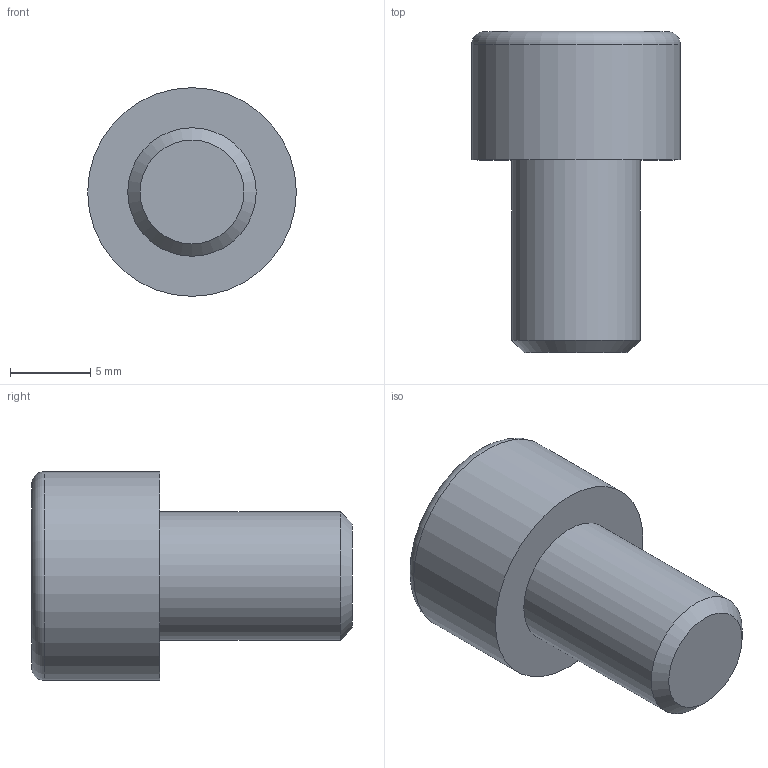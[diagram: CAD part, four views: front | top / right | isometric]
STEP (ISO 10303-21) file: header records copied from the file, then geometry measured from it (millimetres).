
FILE_DESCRIPTION(/* description */ (''),/* implementation_level */ '2;1');
FILE_NAME(/* name */ 'C:\Users\D\Documents\Inventor\各種小物\JIS\JIS B 1176 六角穴付きボルト\M8x12.stp',/* time_stamp */ '2022-05-09T18:52:36+09:00',/* author */ ('D'),/* organization */ (''),/* preprocessor_version */ 'ST-DEVELOPER v18',/* originating_system */ 'Autodesk Inventor 2020',/* authorisation */ '');
FILE_SCHEMA (('AUTOMOTIVE_DESIGN { 1 0 10303 214 3 1 1 }'));
Length unit declared in the file: millimetre
Products named in the file (1): M1.6x2.5
Bounding box: 13 x 20 x 13 mm (x, y, z)
Volume: 1503.5 mm3; surface area: 959 mm2
Topology: 1 solids, 1 shells, 14 faces, 33 edges, 22 vertices
Faces by surface type: plane 9, cone 2, cylinder 2, torus 1
Full cylindrical faces by diameter (mm): 8 x1, 13 x1
Entity records: 435 total; most frequent: CARTESIAN_POINT 83, ORIENTED_EDGE 64, DIRECTION 64, EDGE_CURVE 32, AXIS2_PLACEMENT_3D 24, VERTEX_POINT 22, EDGE_LOOP 16, LINE 16
